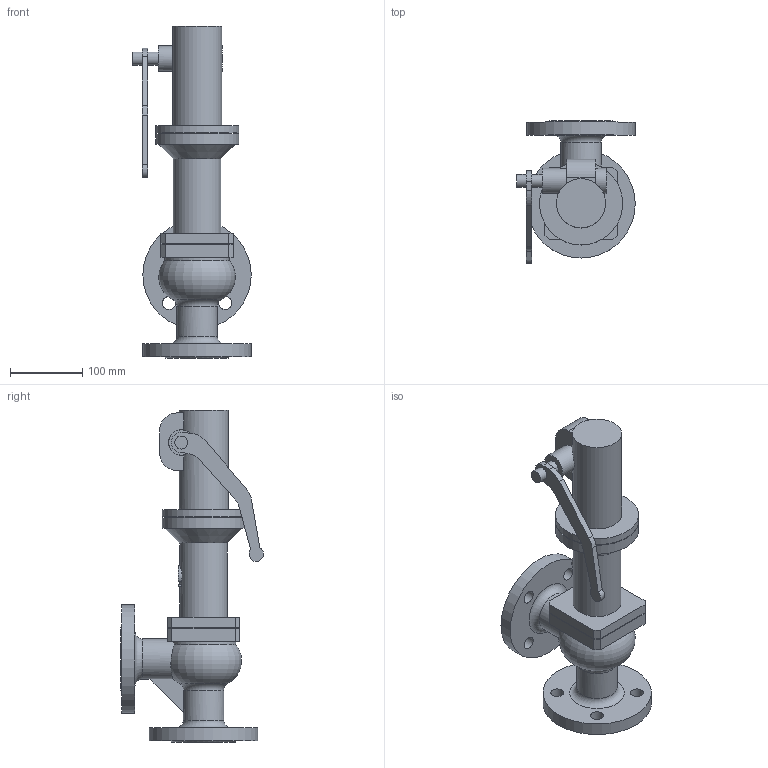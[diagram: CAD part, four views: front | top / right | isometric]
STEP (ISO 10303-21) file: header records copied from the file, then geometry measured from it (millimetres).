
FILE_DESCRIPTION(('STEP AP203'), '1');
FILE_NAME('Êëàïàí ïðåäîõðàíèòåëüíûé ñðåäíåïîäüåìíûé SV1F 40x40', '', ('UNSPECIFIED'), ('UNSPECIFIED'), 'ASCON STEP Converter 1.6', 'ASCON Math Kernel', '');
FILE_SCHEMA(('CONFIG_CONTROL_DESIGN'));
Length unit declared in the file: millimetre
Bounding box: 164 x 197.9 x 459.5 mm (x, y, z)
Volume: 2257437.4 mm3; surface area: 347651.9 mm2
Topology: 1 solids, 3 shells, 127 faces, 325 edges, 213 vertices
Faces by surface type: plane 71, cylinder 48, torus 5, cone 3
Full cylindrical faces by diameter (mm): 18 x10, 35 x2, 40 x3, 50 x1, 52 x1, 56 x2, 66 x1, 68 x1, 77 x1, 95 x1, 115 x2, 150 x2
Entity records: 6182 total; most frequent: CARTESIAN_POINT 2175, DIRECTION 607, ORIENTED_EDGE 560, EDGE_CURVE 280, AXIS2_PLACEMENT_3D 238, VERTEX_POINT 209, EDGE_LOOP 197, FACE_BOUND 146
